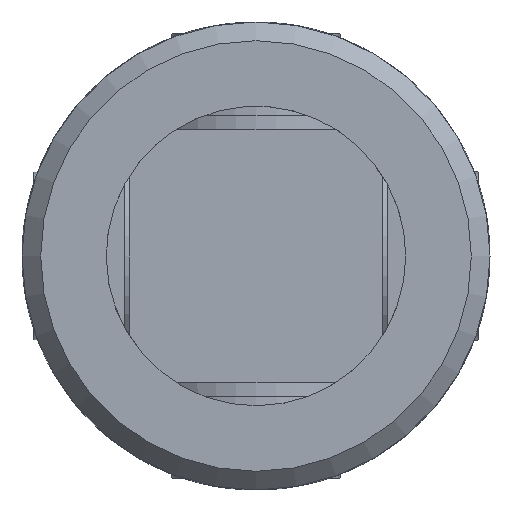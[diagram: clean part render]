
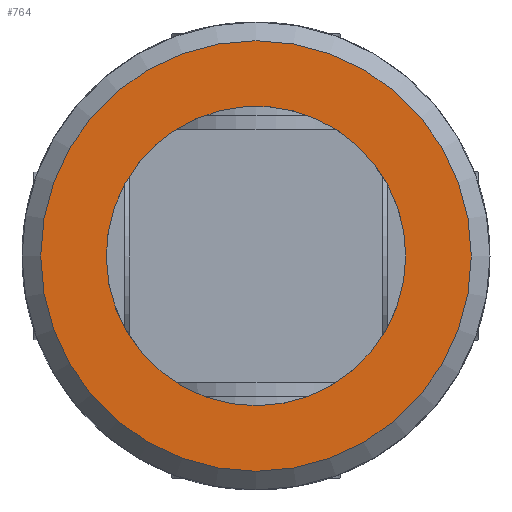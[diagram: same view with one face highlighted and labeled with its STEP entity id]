
A CAD part, front view. The second image highlights one B-rep face of the part: STEP entity #764.
In plain terms, the highlighted planar face has unit normal (0, -1, 0).
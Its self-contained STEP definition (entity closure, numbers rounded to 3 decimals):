
#147=PLANE('',#836);
#172=FACE_BOUND('',#263,.T.);
#199=FACE_OUTER_BOUND('',#262,.T.);
#262=EDGE_LOOP('',(#610));
#263=EDGE_LOOP('',(#611));
#304=CIRCLE('',#821,8.);
#312=CIRCLE('',#834,11.5);
#352=VERTEX_POINT('',#1167);
#366=VERTEX_POINT('',#1257);
#431=EDGE_CURVE('',#352,#352,#304,.T.);
#450=EDGE_CURVE('',#366,#366,#312,.T.);
#610=ORIENTED_EDGE('',*,*,#450,.F.);
#611=ORIENTED_EDGE('',*,*,#431,.T.);
#764=ADVANCED_FACE('',(#199,#172),#147,.F.);
#821=AXIS2_PLACEMENT_3D('',#1168,#956,#957);
#834=AXIS2_PLACEMENT_3D('',#1258,#987,#988);
#836=AXIS2_PLACEMENT_3D('',#1474,#995,#996);
#956=DIRECTION('center_axis',(0.,1.,0.));
#957=DIRECTION('ref_axis',(-1.,0.,0.));
#987=DIRECTION('center_axis',(0.,1.,0.));
#988=DIRECTION('ref_axis',(1.,0.,0.));
#995=DIRECTION('center_axis',(0.,1.,0.));
#996=DIRECTION('ref_axis',(0.,0.,1.));
#1167=CARTESIAN_POINT('',(8.,-43.5,0.));
#1168=CARTESIAN_POINT('Origin',(0.,-43.5,0.));
#1257=CARTESIAN_POINT('',(-11.5,-43.5,0.));
#1258=CARTESIAN_POINT('Origin',(0.,-43.5,0.));
#1474=CARTESIAN_POINT('Origin',(0.,-43.5,0.));
